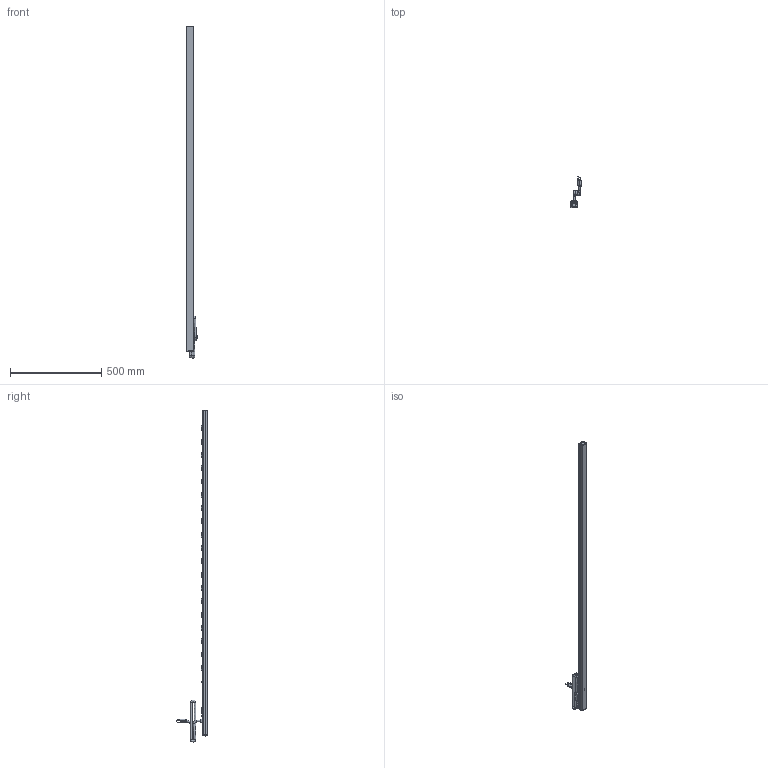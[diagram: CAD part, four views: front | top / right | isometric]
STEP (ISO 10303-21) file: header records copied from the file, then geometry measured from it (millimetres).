
FILE_DESCRIPTION(/* description */ (''),/* implementation_level */ '2;1');
FILE_NAME(/* name */ 'E:\Manufacturing\drawings\Web Drawings\POWER BARS\Surge Protection\1585, 87, 88 ''S'' series\STEP''s\1587H19A1S.stp',/* time_stamp */ '2019-01-14T12:58:02-05:00',/* author */ ('tfoster'),/* organization */ (''),/* preprocessor_version */ 'ST-DEVELOPER v17',/* originating_system */ 'Autodesk Inventor 2019',/* authorisation */ '');
FILE_SCHEMA (('AUTOMOTIVE_DESIGN { 1 0 10303 214 3 1 1 }'));
Length unit declared in the file: inch
Products named in the file (14): 1587H19A1S; 1587H11 top; 1585 bottom; End Cap; End Cap w breaker; Reset Switch; #30862; Cored 2; Power Switch Assembly; Power Switch; Power Switch pt; tamper proof screw; Surge Light; Receptacle
Assembly tree (34 placements, depth 3):
  1587H19A1S
    1587H11 top
    1585 bottom
    End Cap
    End Cap w breaker
    Reset Switch
    #30862  x4
    Cored 2
    Power Switch Assembly
      Power Switch
      Power Switch pt
    tamper proof screw
    Surge Light
    Receptacle  x19
Bounding box: 60.19 x 170.82 x 1821.59 mm (x, y, z)
Volume: 759933.6 mm3; surface area: 698847.4 mm2
Topology: 33 solids, 33 shells, 1763 faces, 4620 edges, 2890 vertices
Faces by surface type: plane 1055, cylinder 448, bspline 125, sphere 83, cone 38, torus 14
Full cylindrical faces by diameter (mm): 1 x1, 1.803 x3, 1.905 x2, 2.13 x20, 3 x2, 3.175 x12, 3.505 x12, 4.775 x1, 4.826 x1, 6.858 x1, 7.747 x1, 8 x1, 9.5 x5, 9.652 x1, 11 x1, 15.621 x1, 19.05 x2
Entity records: 30662 total; most frequent: CARTESIAN_POINT 11471, ORIENTED_EDGE 4090, DIRECTION 3493, EDGE_CURVE 2045, VERTEX_POINT 1354, LINE 1273, VECTOR 1273, AXIS2_PLACEMENT_3D 1110
